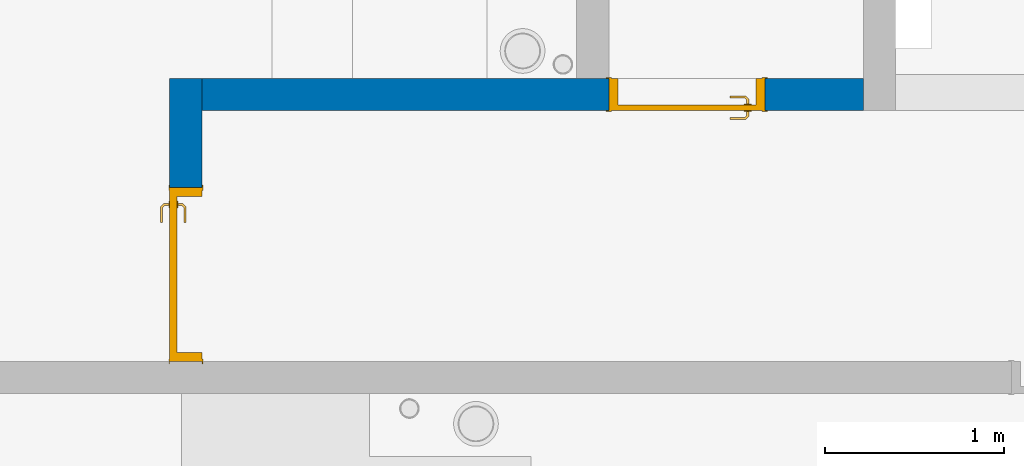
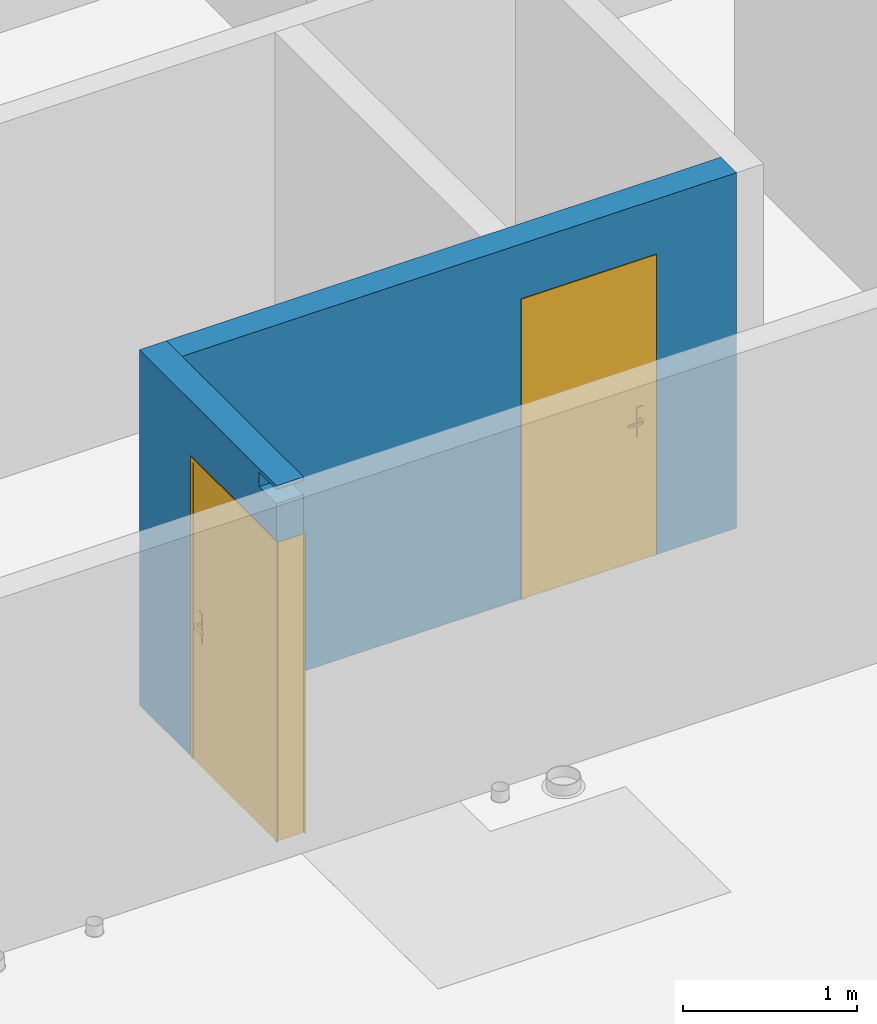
# One storey, part 7 of 30: 2 doors, 2 walls, 3 openings.
"""IFC2X3 building model written with IfcOpenShell, lengths in centimetres."""

from ifc_helpers import new_model, entity, si_unit, converted_unit, derived_unit, direction, frame, frame_2d, origin, place, context, subcontext, project, spatial, rectangle, extrude, faceted_brep, source, transform, mapped, material, material_list, layer, layer_set, layer_usage, type_object, type_shapes, element, fill, save


model = new_model("IFC2X3")

# Units and contexts
model_context = context("Model", 3, precision=0.001, world=origin(), true_north=direction((6.12303176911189e-17, 1.0)))
body_context = subcontext(model_context, "Body", "Model", "MODEL_VIEW")
ifc_project = project(units=[si_unit("LENGTHUNIT", "METRE", prefix="CENTI"), si_unit("AREAUNIT", "SQUARE_METRE"), si_unit("VOLUMEUNIT", "CUBIC_METRE"), converted_unit("PLANEANGLEUNIT", "DEGREE", entity("IfcRatioMeasure", 0.0174532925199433), si_unit("PLANEANGLEUNIT", "RADIAN"), dimensions=[0, 0, 0, 0, 0, 0, 0]), si_unit("MASSUNIT", "GRAM", prefix="KILO"), derived_unit("MASSDENSITYUNIT", [(si_unit("MASSUNIT", "GRAM", prefix="KILO"), 1), (si_unit("LENGTHUNIT", "METRE"), -3)]), si_unit("TIMEUNIT", "SECOND"), si_unit("FREQUENCYUNIT", "HERTZ"), si_unit("THERMODYNAMICTEMPERATUREUNIT", "DEGREE_CELSIUS"), derived_unit("THERMALTRANSMITTANCEUNIT", [(si_unit("MASSUNIT", "GRAM", prefix="KILO"), 1), (si_unit("THERMODYNAMICTEMPERATUREUNIT", "KELVIN"), -1), (si_unit("TIMEUNIT", "SECOND"), -3)]), derived_unit("VOLUMETRICFLOWRATEUNIT", [(si_unit("LENGTHUNIT", "METRE"), 3), (si_unit("TIMEUNIT", "SECOND"), -1)]), si_unit("ELECTRICCURRENTUNIT", "AMPERE"), si_unit("ELECTRICVOLTAGEUNIT", "VOLT"), si_unit("POWERUNIT", "WATT"), si_unit("FORCEUNIT", "NEWTON"), si_unit("ILLUMINANCEUNIT", "LUX"), si_unit("LUMINOUSFLUXUNIT", "LUMEN"), si_unit("LUMINOUSINTENSITYUNIT", "CANDELA"), derived_unit("USERDEFINED", [(si_unit("MASSUNIT", "GRAM", prefix="KILO"), -1), (si_unit("LENGTHUNIT", "METRE"), -2), (si_unit("TIMEUNIT", "SECOND"), 3), (si_unit("LUMINOUSFLUXUNIT", "LUMEN"), 1)]), derived_unit("LINEARVELOCITYUNIT", [(si_unit("LENGTHUNIT", "METRE"), 1), (si_unit("TIMEUNIT", "SECOND"), -1)]), si_unit("PRESSUREUNIT", "PASCAL"), derived_unit("USERDEFINED", [(si_unit("LENGTHUNIT", "METRE"), -2), (si_unit("MASSUNIT", "GRAM", prefix="KILO"), 1), (si_unit("TIMEUNIT", "SECOND"), -2)])], contexts=[model_context])

# Site, building, storey
site_placement = place(None, origin())
site = spatial("IfcSite", under=ifc_project, at=site_placement, Name="Default", CompositionType="ELEMENT")
building_placement = place(site_placement, origin())
building = spatial("IfcBuilding", under=site, at=building_placement, Name="CAGE 03", CompositionType="ELEMENT")
storey_placement = place(building_placement, frame((0.0, 0.0, 610.0)))
storey = spatial("IfcBuildingStorey", under=building, at=storey_placement, Name="R+2", CompositionType="ELEMENT", Elevation=610.0)

# Wall, openings, door
ifc_material_1 = material(Name="Béton, C25/30")
ifc_layer = layer(ifc_material_1, 18.0)
ifc_layer_set = layer_set([ifc_layer], Name="Mur de base:Voile BA 18")
ifc_layer_usage_1 = layer_usage(ifc_layer_set, "AXIS2", "NEGATIVE", 9.0)
wall_type = type_object("IfcWallType", Name="Mur de base:Voile BA 18", PredefinedType="STANDARD", material=ifc_layer_set)
wall_1_placement = place(storey_placement, frame((6453.36582014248, 4492.6606660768, 0.0), z_axis=(0.0, 0.0, 1.0), x_axis=(0.0, 1.0, 0.0)))
wall_1 = element("IfcWallStandardCase", 1, at=wall_1_placement, inside=storey, type_object=wall_type, material=ifc_layer_usage_1, Name="Mur de base:Voile BA 18", ObjectType="Mur de base:Voile BA 18", context=body_context, shape_type="SweptSolid", body=[
    extrude(rectangle(XDim=158.0, YDim=17.9999999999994, at=frame_2d((78.9999999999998, 1.66977542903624e-13), x_axis=(-1.0, 0.0))), origin(), (0.0, 0.0, 1.0), 250.0),
])
opening_1_placement = place(wall_1_placement, origin())
element("IfcOpeningElement", 2, at=opening_1_placement, cuts=wall_1, Name="Mur de base:Voile BA 18", ObjectType="Opening", context=body_context, shape_type="SweptSolid", body=[
    extrude(rectangle(XDim=10.0, YDim=19.9999999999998, at=frame_2d((-4.33431068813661e-13, -5.41788836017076e-14), x_axis=(0.0, 1.0))), frame((10.0, -9.0, 242.5), z_axis=(0.0, 1.0, 0.0), x_axis=(1.0, 0.0, 0.0)), (0.0, 0.0, 1.0), 17.9999999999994),
])
opening_2_placement = place(wall_1_placement, frame((0.0, -9.0, 0.0)))
opening_2 = element("IfcOpeningElement", 3, at=opening_2_placement, cuts=wall_1, Name="Int. Simple:HB93:1", ObjectType="Opening", context=body_context, shape_type="SweptSolid", body=[
    extrude(rectangle(XDim=210.000000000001, YDim=96.9999999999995, at=frame_2d((105.000000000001, 48.4999999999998), x_axis=(1.0, 0.0))), frame((0.0, 0.0, 0.0), z_axis=(0.0, 1.0, 0.0), x_axis=(0.0, 0.0, 1.0)), (0.0, 0.0, 1.0), 18.0),
])
ifc_material_2 = material(Name="Finition Peinture - Blanc satiné")
ifc_material_3 = material(Name="Bois - Panneau de porte")
ifc_material_4 = material(Name="Bois - Cadre de porte")
ifc_material_list_1 = material_list([ifc_material_2, ifc_material_3, ifc_material_4])
ifc_material_list_2 = material_list([ifc_material_2, ifc_material_3, ifc_material_4])
door_style_1 = type_object("IfcDoorStyle", Name="HB93", ConstructionType="NOTDEFINED", OperationType="SINGLE_SWING_LEFT", ParameterTakesPrecedence=False, Sizeable=False, material=ifc_material_list_2)
shared_shape_1 = source(origin(), body_context, "Body", "Brep", [
    faceted_brep([(10.5352761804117, -0.500000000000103, 86.6003983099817), (11.5000000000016, -0.500000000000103, 87.0), (11.5000000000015, -0.500000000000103, 108.0), (10.5352761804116, -0.500000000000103, 108.399601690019), (9.50000000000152, -0.500000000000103, 108.535898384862), (8.46472381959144, -0.500000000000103, 108.399601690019), (7.50000000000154, -0.500000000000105, 108.0), (7.50000000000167, -0.500000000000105, 87.0), (8.46472381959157, -0.500000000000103, 86.6003983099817), (9.50000000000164, -0.500000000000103, 86.464101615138), (10.5352761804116, 0.0, 108.399601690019), (11.5000000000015, 0.0, 108.0), (11.5000000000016, 0.0, 87.0), (10.5352761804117, 0.0, 86.6003983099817), (9.50000000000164, 0.0, 86.464101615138), (8.46472381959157, 0.0, 86.6003983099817), (7.50000000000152, 0.0, 87.0), (7.50000000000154, 0.0, 108.0), (8.46472381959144, 0.0, 108.399601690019), (9.50000000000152, 0.0, 108.535898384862)], [[[0, 1, 2, 3, 4, 5, 6, 7, 8, 9]], [[10, 11, 12, 13, 14, 15, 16, 17, 18, 19]], [[16, 15, 8, 7]], [[8, 15, 14, 9]], [[14, 13, 0, 9]], [[13, 12, 1, 0]], [[2, 1, 12, 11]], [[11, 10, 3, 2]], [[3, 10, 19, 4]], [[19, 18, 5, 4]], [[18, 17, 6, 5]], [[7, 6, 17, 16]]]),
    faceted_brep([(10.5352761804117, 4.0, 86.6003983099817), (11.5000000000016, 4.0, 87.0), (11.5000000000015, 4.0, 108.0), (10.5352761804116, 4.0, 108.399601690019), (9.50000000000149, 4.0, 108.535898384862), (8.46472381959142, 4.0, 108.399601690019), (7.50000000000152, 4.0, 108.0), (7.50000000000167, 4.0, 87.0), (8.46472381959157, 4.0, 86.6003983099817), (9.50000000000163, 4.0, 86.464101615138), (10.5352761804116, 4.49999999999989, 108.399601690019), (11.5000000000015, 4.4999999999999, 108.0), (11.5000000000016, 4.4999999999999, 87.0), (10.5352761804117, 4.49999999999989, 86.6003983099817), (9.50000000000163, 4.49999999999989, 86.464101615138), (8.46472381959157, 4.49999999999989, 86.6003983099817), (7.50000000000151, 4.49999999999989, 87.0), (7.50000000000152, 4.49999999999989, 108.0), (8.46472381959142, 4.49999999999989, 108.399601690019), (9.50000000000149, 4.49999999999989, 108.535898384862)], [[[0, 1, 2, 3, 4, 5, 6, 7, 8, 9]], [[10, 11, 12, 13, 14, 15, 16, 17, 18, 19]], [[11, 10, 3, 2]], [[3, 10, 19, 4]], [[19, 18, 5, 4]], [[18, 17, 6, 5]], [[7, 6, 17, 16]], [[16, 15, 8, 7]], [[8, 15, 14, 9]], [[14, 13, 0, 9]], [[13, 12, 1, 0]], [[2, 1, 12, 11]]]),
    faceted_brep([(9.29747013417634, -0.500000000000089, 100.778044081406), (9.70252986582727, -0.500000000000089, 100.778044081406), (10.1000000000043, -0.500000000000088, 100.699999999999), (10.1000000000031, -0.500000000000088, 99.3000000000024), (9.70252986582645, -0.500000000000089, 99.2219559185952), (9.29747013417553, -0.500000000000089, 99.221955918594), (8.89999999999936, -0.500000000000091, 99.2999999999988), (8.89999999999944, -0.500000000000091, 100.7), (8.89999999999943, -3.26509507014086, 100.7), (9.29747013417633, -3.10045754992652, 100.778044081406), (10.9023585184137, -4.70534593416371, 100.778044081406), (11.0701397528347, -4.30028620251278, 100.778044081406), (9.70252986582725, -2.93267631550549, 100.778044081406), (10.1000000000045, -2.76803879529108, 100.7), (10.1000000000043, -2.76803879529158, 99.3000000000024), (9.70252986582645, -2.93267631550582, 99.2219559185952), (11.0701397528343, -4.30028620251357, 99.2219559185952), (10.9023585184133, -4.70534593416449, 99.221955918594), (9.29747013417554, -3.10045754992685, 99.221955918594), (8.89999999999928, -3.26509507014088, 99.2999999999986), (10.7377209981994, -5.1028160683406, 100.7), (11.2347772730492, -3.90281606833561, 100.7), (11.2347772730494, -3.90281606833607, 99.3000000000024), (10.7377209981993, -5.10281606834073, 99.2999999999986), (19.5018640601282, -5.1028160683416, 99.2999999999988), (19.5018640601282, -4.70534593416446, 99.221955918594), (19.5018640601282, -4.30028620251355, 99.2219559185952), (19.5018640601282, -3.90281606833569, 99.3000000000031), (19.5018640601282, -3.90281606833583, 100.7), (19.5018640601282, -4.30028620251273, 100.778044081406), (19.5018640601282, -4.70534593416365, 100.778044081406), (19.5018640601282, -5.10281606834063, 100.699999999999), (14.7307697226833, -5.10281606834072, 100.7), (15.28600190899, -4.5028160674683, 100.78786867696), (15.3683206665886, -3.9028160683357, 100.7), (15.3683206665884, -3.90281606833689, 99.3000000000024), (15.2860018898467, -4.50281607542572, 99.2121313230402), (14.7307700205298, -5.10281606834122, 99.2999999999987)], [[[0, 1, 2, 3, 4, 5, 6, 7]], [[8, 9, 0, 7]], [[9, 10, 11, 12, 1, 0]], [[12, 13, 2, 1]], [[3, 2, 13, 14]], [[14, 15, 4, 3]], [[15, 16, 17, 18, 5, 4]], [[18, 19, 6, 5]], [[7, 6, 19, 8]], [[20, 10, 9, 8]], [[11, 21, 13, 12]], [[14, 13, 21, 22]], [[22, 16, 15, 14]], [[17, 23, 19, 18]], [[8, 19, 23, 20]], [[24, 25, 26, 27, 28, 29, 30, 31]], [[32, 30, 33]], [[31, 30, 32]], [[10, 20, 32]], [[33, 34, 11]], [[21, 11, 34]], [[34, 29, 28]], [[30, 29, 33]], [[29, 34, 33]], [[10, 32, 33]], [[10, 33, 11]], [[22, 21, 34, 28, 27, 35]], [[35, 26, 36]], [[37, 36, 25]], [[22, 35, 16]], [[35, 27, 26]], [[24, 37, 25]], [[23, 17, 37]], [[37, 17, 36]], [[17, 16, 36]], [[16, 35, 36]], [[25, 36, 26]], [[20, 23, 37, 24, 31, 32]]]),
    faceted_brep([(9.29747013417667, 4.49999999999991, 100.778044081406), (8.89999999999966, 4.49999999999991, 100.7), (8.89999999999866, 4.49999999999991, 99.2999999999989), (9.2974701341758, 4.49999999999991, 99.221955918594), (9.70252986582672, 4.49999999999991, 99.2219559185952), (10.1000000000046, 4.49999999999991, 99.3000000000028), (10.1000000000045, 4.49999999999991, 100.7), (9.70252986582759, 4.49999999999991, 100.778044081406), (10.1000000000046, 6.7485204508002, 99.3000000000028), (10.1000000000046, 6.74852045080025, 100.7), (9.70252986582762, 6.91315797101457, 100.778044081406), (11.0838906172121, 8.29451872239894, 100.778044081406), (10.9161093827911, 8.69957845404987, 100.778044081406), (9.29747013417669, 7.0809392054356, 100.778044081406), (8.89999999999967, 7.24557672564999, 100.7), (8.89999999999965, 7.24557672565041, 99.2999999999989), (9.29747013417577, 7.08093920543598, 99.221955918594), (10.9161093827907, 8.69957845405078, 99.221955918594), (11.0838906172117, 8.29451872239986, 99.2219559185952), (9.7025298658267, 6.91315797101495, 99.2219559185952), (11.2485281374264, 7.89704858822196, 99.3000000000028), (11.2485281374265, 7.89704858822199, 100.7), (10.7514718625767, 9.0970485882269, 100.7), (10.751471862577, 9.0970485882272, 99.2999999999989), (19.504578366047, 7.89704858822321, 99.3000000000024), (19.504578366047, 8.29451872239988, 99.2219559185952), (19.504578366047, 8.6995784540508, 99.221955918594), (19.504578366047, 9.09704858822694, 99.2999999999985), (19.504578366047, 9.09704858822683, 100.7), (19.504578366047, 8.69957845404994, 100.778044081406), (19.504578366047, 8.29451872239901, 100.778044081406), (19.504578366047, 7.89704858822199, 100.7), (15.3765520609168, 7.89704858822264, 99.3000000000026), (15.3765532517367, 7.89704858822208, 100.7), (15.294234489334, 8.49704858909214, 100.78786867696), (14.7445205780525, 9.09704858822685, 100.7), (14.7445204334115, 9.09704858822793, 99.2999999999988), (15.2942345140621, 8.49704858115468, 99.2121313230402)], [[[0, 1, 2, 3, 4, 5, 6, 7]], [[6, 5, 8, 9]], [[9, 10, 7, 6]], [[10, 11, 12, 13, 0, 7]], [[13, 14, 1, 0]], [[2, 1, 14, 15]], [[15, 16, 3, 2]], [[16, 17, 18, 19, 4, 3]], [[19, 8, 5, 4]], [[9, 8, 20, 21]], [[21, 11, 10, 9]], [[12, 22, 14, 13]], [[15, 14, 22, 23]], [[23, 17, 16, 15]], [[18, 20, 8, 19]], [[24, 25, 26, 27, 28, 29, 30, 31]], [[21, 20, 32, 24, 31, 33]], [[33, 30, 34]], [[35, 34, 29]], [[21, 33, 11]], [[33, 31, 30]], [[28, 35, 29]], [[22, 12, 35]], [[35, 12, 34]], [[12, 11, 34]], [[11, 33, 34]], [[29, 34, 30]], [[22, 35, 28, 27, 36, 23]], [[36, 26, 37]], [[27, 26, 36]], [[17, 23, 36]], [[37, 32, 18]], [[20, 18, 32]], [[32, 25, 24]], [[26, 25, 37]], [[25, 32, 37]], [[17, 36, 37]], [[17, 37, 18]]]),
    faceted_brep([(3.50000000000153, 4.0, 206.5), (93.5000000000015, 4.0, 206.5), (93.5000000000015, 4.0, 0.0), (3.50000000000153, 4.0, 0.0), (3.50000000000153, 0.0, 206.5), (3.50000000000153, 0.0, 0.0), (93.5000000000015, 0.0, 0.0), (93.5000000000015, 0.0, 206.5)], [[[0, 1, 2, 3]], [[4, 5, 6, 7]], [[1, 0, 4, 7]], [[2, 1, 7, 6]], [[3, 2, 6, 5]], [[0, 3, 5, 4]]]),
    faceted_brep([(0.0, 0.0, 0.0), (0.0, 18.0, 0.0), (5.0, 18.0, 0.0), (5.0, 4.0, 0.0), (3.50000000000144, 4.0, 0.0), (3.50000000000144, 0.0, 0.0), (0.0, 0.0, 210.0), (0.0, 18.0, 210.0), (97.0, 18.0, 210.0), (97.0, 18.0, 0.0), (92.0, 18.0, 0.0), (92.0, 18.0, 205.0), (5.0, 18.0, 205.0), (5.0, 4.0, 205.0), (92.0, 4.0, 205.0), (92.0, 4.0, 0.0), (93.4999999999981, 4.0, 0.0), (93.4999999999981, 4.0, 206.5), (3.50000000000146, 4.0, 206.5), (3.50000000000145, 0.0, 206.5), (93.4999999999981, 0.0, 206.5), (93.4999999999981, 0.0, 0.0), (97.0, 0.0, 0.0), (97.0, 0.0, 210.0)], [[[0, 1, 2, 3, 4, 5]], [[1, 0, 6, 7]], [[2, 1, 7, 8, 9, 10, 11, 12]], [[3, 2, 12, 13]], [[4, 3, 13, 14, 15, 16, 17, 18]], [[5, 4, 18, 19]], [[0, 5, 19, 20, 21, 22, 23, 6]], [[8, 23, 22, 9]], [[22, 21, 16, 15, 10, 9]], [[14, 11, 10, 15]], [[20, 17, 16, 21]], [[7, 6, 23, 8]], [[13, 12, 11, 14]], [[19, 18, 17, 20]]]),
    faceted_brep([(1.5, 18.0, 0.0), (-1.49999999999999, 18.0, 0.0), (-1.49999999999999, 18.5000000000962, 0.0), (1.5, 18.5000000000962, 0.0), (1.5, 18.0, 208.500000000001), (95.4999999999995, 18.0, 208.500000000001), (95.4999999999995, 18.0, 0.0), (98.4999999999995, 18.0, 0.0), (98.4999999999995, 18.0, 211.500000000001), (-1.49999999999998, 18.0, 211.500000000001), (-1.49999999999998, 18.5000000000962, 211.500000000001), (98.4999999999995, 18.5000000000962, 211.500000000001), (98.4999999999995, 18.5000000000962, 0.0), (95.4999999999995, 18.5000000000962, 0.0), (95.4999999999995, 18.5000000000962, 208.500000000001), (1.50000000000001, 18.5000000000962, 208.500000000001)], [[[0, 1, 2, 3]], [[1, 0, 4, 5, 6, 7, 8, 9]], [[2, 1, 9, 10]], [[3, 2, 10, 11, 12, 13, 14, 15]], [[0, 3, 15, 4]], [[6, 13, 12, 7]], [[5, 14, 13, 6]], [[11, 8, 7, 12]], [[10, 9, 8, 11]], [[4, 15, 14, 5]]]),
    faceted_brep([(-1.49999999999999, -0.5, 0.0), (1.5, -0.5, 0.0), (1.5, -0.5, 208.500000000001), (95.4999999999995, -0.5, 208.500000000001), (95.4999999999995, -0.5, 0.0), (98.4999999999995, -0.5, 0.0), (98.4999999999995, -0.5, 211.500000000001), (-1.49999999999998, -0.5, 211.500000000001), (-1.49999999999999, 0.0, 0.0), (-1.49999999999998, 0.0, 211.500000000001), (1.5, 0.0, 0.0), (98.4999999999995, 0.0, 211.500000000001), (98.4999999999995, 0.0, 0.0), (95.4999999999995, 0.0, 0.0), (95.4999999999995, 0.0, 208.500000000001), (1.50000000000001, 0.0, 208.500000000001)], [[[0, 1, 2, 3, 4, 5, 6, 7]], [[8, 0, 7, 9]], [[10, 8, 9, 11, 12, 13, 14, 15]], [[1, 10, 15, 2]], [[3, 14, 13, 4]], [[11, 6, 5, 12]], [[9, 7, 6, 11]], [[2, 15, 14, 3]], [[4, 13, 12, 5]], [[1, 0, 8, 10]]]),
])
type_shapes(door_style_1, [shared_shape_1])
door_1_placement = place(opening_2_placement, frame((97.0, 18.0, 0.0), z_axis=(0.0, 0.0, 1.0), x_axis=(-1.0, 0.0, 0.0)))
door_1 = element("IfcDoor", 4, at=door_1_placement, inside=storey, type_object=door_style_1, material=ifc_material_list_1, Name="Int. Simple:HB93", ObjectType="HB93", OverallHeight=210.000000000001, OverallWidth=96.9999999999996, context=body_context, shape_type="MappedRepresentation", body=[
    mapped(shared_shape_1, transform((0.0, 0.0, 0.0), scale=1.0)),
])
fill(opening_2, door_1)

# Wall, opening, door
ifc_layer_usage_2 = layer_usage(ifc_layer_set, "AXIS2", "NEGATIVE", 9.0)
wall_2_placement = place(storey_placement, frame((6462.36582014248, 4641.6606660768, 0.0)))
wall_2 = element("IfcWallStandardCase", 5, at=wall_2_placement, inside=storey, type_object=wall_type, material=ifc_layer_usage_2, Name="Mur de base:Voile BA 18", ObjectType="Mur de base:Voile BA 18", context=body_context, shape_type="SweptSolid", body=[
    extrude(rectangle(XDim=369.000000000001, YDim=17.9999999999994, at=frame_2d((184.500000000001, -6.21724893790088e-14), x_axis=(-1.0, 0.0))), origin(), (0.0, 0.0, 1.0), 250.0),
])
opening_3_placement = place(wall_2_placement, frame((314.0, 9.0, 0.0)))
opening_3 = element("IfcOpeningElement", 6, at=opening_3_placement, cuts=wall_2, Name="Int. Simple:HB83:1", ObjectType="Opening", context=body_context, shape_type="SweptSolid", body=[
    extrude(rectangle(XDim=210.000000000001, YDim=86.9999999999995, at=frame_2d((105.000000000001, 43.4999999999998), x_axis=(1.0, 0.0))), frame((0.0, 0.0, 0.0), z_axis=(0.0, -1.0, 0.0), x_axis=(0.0, 0.0, 1.0)), (0.0, 0.0, 1.0), 18.0),
])
ifc_material_list_3 = material_list([ifc_material_2, ifc_material_3, ifc_material_4])
ifc_material_list_4 = material_list([ifc_material_2, ifc_material_3, ifc_material_4])
door_style_2 = type_object("IfcDoorStyle", Name="HB83", ConstructionType="NOTDEFINED", OperationType="SINGLE_SWING_RIGHT", ParameterTakesPrecedence=False, Sizeable=False, material=ifc_material_list_4)
shared_shape_2 = source(origin(), body_context, "Body", "Brep", [
    faceted_brep([(86.5000000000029, -0.500000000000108, 87.0), (86.5000000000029, -0.500000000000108, 108.0), (85.535276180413, -0.500000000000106, 108.399601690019), (84.5000000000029, -0.500000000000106, 108.535898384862), (83.4647238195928, -0.500000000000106, 108.399601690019), (82.500000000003, -0.500000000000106, 108.0), (82.5000000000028, -0.500000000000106, 87.0), (83.4647238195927, -0.500000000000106, 86.6003983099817), (84.5000000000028, -0.500000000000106, 86.464101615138), (85.5352761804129, -0.500000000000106, 86.6003983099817), (86.5000000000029, 0.0, 108.0), (86.5000000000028, 0.0, 87.0), (85.5352761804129, 0.0, 86.6003983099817), (84.5000000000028, 0.0, 86.464101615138), (83.4647238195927, 0.0, 86.6003983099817), (82.5000000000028, 0.0, 87.0), (82.500000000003, 0.0, 108.0), (83.4647238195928, 0.0, 108.399601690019), (84.5000000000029, 0.0, 108.535898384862), (85.535276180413, 0.0, 108.399601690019)], [[[0, 1, 2, 3, 4, 5, 6, 7, 8, 9]], [[10, 11, 12, 13, 14, 15, 16, 17, 18, 19]], [[9, 12, 11, 0]], [[8, 13, 12, 9]], [[7, 14, 13, 8]], [[7, 6, 15, 14]], [[15, 6, 5, 16]], [[4, 17, 16, 5]], [[3, 18, 17, 4]], [[2, 19, 18, 3]], [[2, 1, 10, 19]], [[11, 10, 1, 0]]]),
    faceted_brep([(86.5000000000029, 3.0, 87.0), (86.5000000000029, 3.0, 108.0), (85.535276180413, 3.0, 108.399601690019), (84.500000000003, 3.0, 108.535898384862), (83.4647238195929, 3.0, 108.399601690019), (82.500000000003, 3.0, 108.0), (82.5000000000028, 3.0, 87.0), (83.4647238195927, 3.0, 86.6003983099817), (84.5000000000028, 3.0, 86.464101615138), (85.5352761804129, 3.0, 86.6003983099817), (84.500000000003, 3.49999999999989, 108.535898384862), (85.535276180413, 3.49999999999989, 108.399601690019), (86.5000000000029, 3.49999999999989, 108.0), (86.5000000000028, 3.49999999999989, 87.0), (85.5352761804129, 3.49999999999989, 86.6003983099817), (84.5000000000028, 3.49999999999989, 86.464101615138), (83.4647238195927, 3.49999999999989, 86.6003983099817), (82.5000000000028, 3.49999999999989, 87.0), (82.500000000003, 3.49999999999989, 108.0), (83.4647238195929, 3.49999999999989, 108.399601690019)], [[[0, 1, 2, 3, 4, 5, 6, 7, 8, 9]], [[10, 11, 12, 13, 14, 15, 16, 17, 18, 19]], [[4, 19, 18, 5]], [[3, 10, 19, 4]], [[2, 11, 10, 3]], [[2, 1, 12, 11]], [[13, 12, 1, 0]], [[9, 14, 13, 0]], [[8, 15, 14, 9]], [[7, 16, 15, 8]], [[7, 6, 17, 16]], [[17, 6, 5, 18]]]),
    faceted_brep([(84.297470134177, -0.500000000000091, 100.778044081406), (84.7025298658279, -0.500000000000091, 100.778044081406), (85.1000000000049, -0.500000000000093, 100.699999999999), (85.1000000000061, -0.500000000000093, 99.299999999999), (84.702529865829, -0.500000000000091, 99.2219559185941), (84.297470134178, -0.500000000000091, 99.2219559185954), (83.9000000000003, -0.500000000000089, 99.3000000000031), (83.9000000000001, -0.500000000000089, 100.7), (84.7025298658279, -3.1004575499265, 100.778044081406), (85.1000000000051, -3.26509507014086, 100.7), (84.297470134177, -2.93267631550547, 100.778044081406), (82.9298602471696, -4.30028620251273, 100.778044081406), (83.0976414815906, -4.70534593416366, 100.778044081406), (83.9000000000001, -2.76803879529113, 100.7), (83.9000000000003, -2.76803879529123, 99.3000000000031), (84.297470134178, -2.93267631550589, 99.2219559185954), (84.702529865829, -3.10045754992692, 99.2219559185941), (83.097641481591, -4.70534593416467, 99.2219559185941), (82.92986024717, -4.30028620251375, 99.2219559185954), (85.1000000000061, -3.26509507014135, 99.299999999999), (83.2622790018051, -5.10281606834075, 100.7), (82.7652227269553, -3.90281606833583, 100.7), (82.7652227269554, -3.90281606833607, 99.3000000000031), (83.2622790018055, -5.10281606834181, 99.299999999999), (74.4981359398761, -5.1028160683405, 100.7), (74.4981359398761, -4.7053459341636, 100.778044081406), (74.4981359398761, -4.30028620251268, 100.778044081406), (74.4981359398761, -3.90281606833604, 100.699999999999), (74.4981359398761, -3.90281606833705, 99.3000000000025), (74.4981359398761, -4.30028620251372, 99.2219559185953), (74.4981359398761, -4.70534593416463, 99.2219559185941), (74.4981359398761, -5.10281606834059, 99.2999999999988), (78.7139980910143, -4.50281606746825, 100.78786867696), (79.2692302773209, -5.10281606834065, 100.7), (78.6316793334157, -3.90281606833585, 100.7), (78.6316793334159, -3.90281606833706, 99.3000000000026), (78.7139981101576, -4.50281607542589, 99.2121313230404), (79.2692299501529, -5.10281606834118, 99.2999999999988)], [[[0, 1, 2, 3, 4, 5, 6, 7]], [[2, 1, 8, 9]], [[1, 0, 10, 11, 12, 8]], [[0, 7, 13, 10]], [[14, 13, 7, 6]], [[5, 15, 14, 6]], [[5, 4, 16, 17, 18, 15]], [[3, 19, 16, 4]], [[9, 19, 3, 2]], [[9, 8, 12, 20]], [[10, 13, 21, 11]], [[22, 21, 13, 14]], [[14, 15, 18, 22]], [[16, 19, 23, 17]], [[20, 23, 19, 9]], [[24, 25, 26, 27, 28, 29, 30, 31]], [[32, 25, 33]], [[33, 25, 24]], [[33, 20, 12]], [[11, 34, 32]], [[34, 11, 21]], [[27, 26, 34]], [[32, 26, 25]], [[32, 34, 26]], [[32, 33, 12]], [[11, 32, 12]], [[21, 22, 35, 28, 27, 34]], [[36, 29, 35]], [[30, 36, 37]], [[18, 35, 22]], [[29, 28, 35]], [[30, 37, 31]], [[37, 17, 23]], [[36, 17, 37]], [[36, 18, 17]], [[36, 35, 18]], [[29, 36, 30]], [[23, 20, 33, 24, 31, 37]]]),
    faceted_brep([(84.2974701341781, 3.49999999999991, 99.2219559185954), (84.702529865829, 3.49999999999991, 99.2219559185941), (85.1000000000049, 3.4999999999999, 99.2999999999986), (85.1000000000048, 3.4999999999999, 100.7), (84.7025298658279, 3.49999999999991, 100.778044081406), (84.297470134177, 3.49999999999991, 100.778044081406), (83.9000000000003, 3.49999999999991, 100.7), (83.9000000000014, 3.49999999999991, 99.3000000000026), (83.9000000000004, 5.74852045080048, 100.7), (83.9000000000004, 5.74852045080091, 99.3000000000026), (84.2974701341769, 5.91315797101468, 100.778044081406), (84.7025298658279, 6.08093920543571, 100.778044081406), (83.0838906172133, 7.69957845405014, 100.778044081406), (82.9161093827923, 7.29451872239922, 100.778044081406), (85.1000000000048, 6.24557672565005, 100.7), (85.1000000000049, 6.2455767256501, 99.2999999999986), (84.702529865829, 6.08093920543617, 99.2219559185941), (84.2974701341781, 5.91315797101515, 99.2219559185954), (82.9161093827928, 7.29451872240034, 99.2219559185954), (83.0838906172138, 7.69957845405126, 99.2219559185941), (82.7514718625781, 6.89704858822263, 100.7), (82.7514718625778, 6.89704858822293, 99.3000000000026), (83.2485281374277, 8.09704858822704, 100.7), (83.2485281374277, 8.09704858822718, 99.2999999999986), (74.4954216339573, 7.29451872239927, 100.778044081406), (74.4954216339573, 7.6995784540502, 100.778044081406), (74.4954216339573, 8.0970485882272, 100.7), (74.4954216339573, 8.09704858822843, 99.299999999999), (74.4954216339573, 7.6995784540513, 99.2219559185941), (74.4954216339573, 7.29451872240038, 99.2219559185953), (74.4954216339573, 6.89704858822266, 99.3000000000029), (74.4954216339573, 6.89704858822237, 100.7), (78.6234467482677, 6.89704858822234, 100.7), (78.6234479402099, 6.89704858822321, 99.3000000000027), (78.7057655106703, 7.4970485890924, 100.78786867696), (79.255479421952, 8.09704858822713, 100.7), (79.2554794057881, 8.09704858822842, 99.299999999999), (78.7057654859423, 7.49704858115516, 99.2121313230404)], [[[0, 1, 2, 3, 4, 5, 6, 7]], [[8, 9, 7, 6]], [[5, 10, 8, 6]], [[5, 4, 11, 12, 13, 10]], [[3, 14, 11, 4]], [[14, 3, 2, 15]], [[2, 1, 16, 15]], [[1, 0, 17, 18, 19, 16]], [[0, 7, 9, 17]], [[20, 21, 9, 8]], [[8, 10, 13, 20]], [[14, 22, 12, 11]], [[23, 22, 14, 15]], [[15, 16, 19, 23]], [[17, 9, 21, 18]], [[24, 25, 26, 27, 28, 29, 30, 31]], [[20, 32, 31, 30, 33, 21]], [[34, 24, 32]], [[25, 34, 35]], [[13, 32, 20]], [[24, 31, 32]], [[25, 35, 26]], [[35, 12, 22]], [[34, 12, 35]], [[34, 13, 12]], [[34, 32, 13]], [[24, 34, 25]], [[22, 23, 36, 27, 26, 35]], [[37, 28, 36]], [[36, 28, 27]], [[36, 23, 19]], [[18, 33, 37]], [[33, 18, 21]], [[30, 29, 33]], [[37, 29, 28]], [[37, 33, 29]], [[37, 36, 19]], [[18, 37, 19]]]),
    faceted_brep([(90.5000000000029, 3.0, 206.5), (90.5000000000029, 3.0, 0.0), (10.5000000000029, 3.0, 0.0), (10.5000000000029, 3.0, 206.5), (90.5000000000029, 0.0, 206.5), (10.5000000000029, 0.0, 206.5), (10.5000000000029, 0.0, 0.0), (90.5000000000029, 0.0, 0.0)], [[[0, 1, 2, 3]], [[4, 5, 6, 7]], [[3, 5, 4, 0]], [[2, 6, 5, 3]], [[1, 7, 6, 2]], [[0, 4, 7, 1]]]),
    faceted_brep([(94.0, 0.0, 0.0), (90.5000000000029, 0.0, 0.0), (90.5000000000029, 3.0, 0.0), (89.0, 3.0, 0.0), (89.0, 18.0, 0.0), (94.0, 18.0, 0.0), (94.0, 18.0, 210.0), (94.0, 0.0, 210.0), (89.0, 18.0, 205.0), (12.0, 18.0, 205.0), (12.0, 18.0, 0.0), (7.0, 18.0, 0.0), (7.0, 18.0, 210.0), (89.0, 3.0, 205.0), (90.5000000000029, 3.0, 206.5), (10.5000000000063, 3.0, 206.5), (10.5000000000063, 3.0, 0.0), (12.0, 3.0, 0.0), (12.0, 3.0, 205.0), (90.5000000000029, 0.0, 206.5), (7.0, 0.0, 210.0), (7.0, 0.0, 0.0), (10.5000000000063, 0.0, 0.0), (10.5000000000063, 0.0, 206.5)], [[[0, 1, 2, 3, 4, 5]], [[5, 6, 7, 0]], [[4, 8, 9, 10, 11, 12, 6, 5]], [[3, 13, 8, 4]], [[2, 14, 15, 16, 17, 18, 13, 3]], [[1, 19, 14, 2]], [[0, 7, 20, 21, 22, 23, 19, 1]], [[12, 11, 21, 20]], [[21, 11, 10, 17, 16, 22]], [[18, 17, 10, 9]], [[23, 22, 16, 15]], [[6, 12, 20, 7]], [[13, 18, 9, 8]], [[19, 23, 15, 14]]]),
    faceted_brep([(92.5000000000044, 18.0, 0.0), (92.5000000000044, 18.5000000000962, 0.0), (95.5000000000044, 18.5000000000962, 0.0), (95.5000000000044, 18.0, 0.0), (95.5000000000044, 18.0, 211.500000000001), (5.50000000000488, 18.0, 211.500000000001), (5.50000000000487, 18.0, 0.0), (8.50000000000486, 18.0, 0.0), (8.50000000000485, 18.0, 208.500000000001), (92.5000000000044, 18.0, 208.500000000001), (95.5000000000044, 18.5000000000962, 211.500000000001), (92.5000000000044, 18.5000000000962, 208.500000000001), (8.50000000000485, 18.5000000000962, 208.500000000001), (8.50000000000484, 18.5000000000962, 0.0), (5.50000000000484, 18.5000000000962, 0.0), (5.50000000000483, 18.5000000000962, 211.500000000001)], [[[0, 1, 2, 3]], [[3, 4, 5, 6, 7, 8, 9, 0]], [[2, 10, 4, 3]], [[1, 11, 12, 13, 14, 15, 10, 2]], [[0, 9, 11, 1]], [[7, 6, 14, 13]], [[8, 7, 13, 12]], [[15, 14, 6, 5]], [[10, 15, 5, 4]], [[9, 8, 12, 11]]]),
    faceted_brep([(95.5000000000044, -0.5, 0.0), (95.5000000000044, -0.5, 211.500000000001), (5.50000000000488, -0.5, 211.500000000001), (5.50000000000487, -0.5, 0.0), (8.50000000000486, -0.5, 0.0), (8.50000000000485, -0.5, 208.500000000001), (92.5000000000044, -0.5, 208.500000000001), (92.5000000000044, -0.5, 0.0), (95.5000000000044, 0.0, 0.0), (95.5000000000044, 0.0, 211.500000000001), (92.5000000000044, 0.0, 0.0), (92.5000000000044, 0.0, 208.500000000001), (8.50000000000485, 0.0, 208.500000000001), (8.50000000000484, 0.0, 0.0), (5.50000000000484, 0.0, 0.0), (5.50000000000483, 0.0, 211.500000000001)], [[[0, 1, 2, 3, 4, 5, 6, 7]], [[8, 9, 1, 0]], [[10, 11, 12, 13, 14, 15, 9, 8]], [[7, 6, 11, 10]], [[5, 4, 13, 12]], [[15, 14, 3, 2]], [[9, 15, 2, 1]], [[6, 5, 12, 11]], [[4, 3, 14, 13]], [[7, 10, 8, 0]]]),
])
type_shapes(door_style_2, [shared_shape_2])
door_2_placement = place(opening_3_placement, frame((-94.0, -18.0, 0.0)))
door_2 = element("IfcDoor", 7, at=door_2_placement, inside=storey, type_object=door_style_2, material=ifc_material_list_3, Name="Int. Simple:HB83", ObjectType="HB83", OverallHeight=210.000000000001, OverallWidth=86.9999999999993, context=body_context, shape_type="MappedRepresentation", body=[
    mapped(shared_shape_2, transform((0.0, 0.0, 0.0), scale=1.0)),
])
fill(opening_3, door_2)

save(model, "model.ifc")
